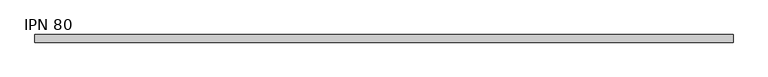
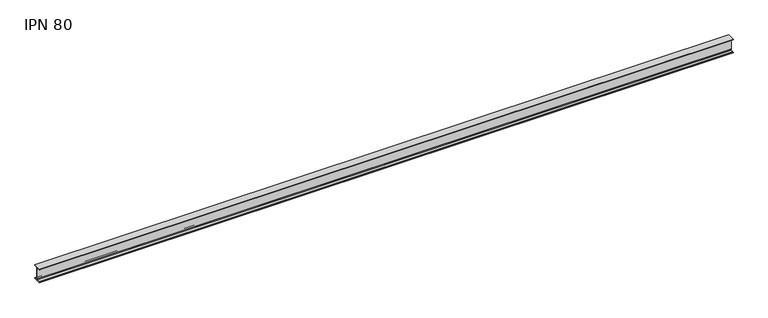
"""IFC4 building model written with IfcOpenShell, lengths in millimetres: beam geometry, IPN - Secciones en I con alas cónicas : IPN 80."""

from ifc_helpers import new_model, si_unit, point, frame, frame_2d, origin, place, context, project, spatial, polyline, circle_curve, trimmed, segment, composite_curve, outline, extrude, source, transform, mapped, element, save


def ipn_80_c03a737b(model_context):
    return source(origin(), model_context, "Body", "SweptSolid", [
        extrude(outline(composite_curve([segment(polyline([(21.0, 40.0), (21.0, 37.5704306)]), True, "CONTINUOUS"), segment(trimmed(circle_curve(frame_2d((18.7, 37.5704306)), 2.3), [point((21.0, 37.5704306))], [point((19.01889, 35.2926446))], False, "CARTESIAN"), True, "CONTINUOUS"), segment(polyline([(19.01889, 35.2926446), (5.3092734, 33.3732983)]), True, "CONTINUOUS"), segment(trimmed(circle_curve(frame_2d((5.85, 29.5109655)), 3.9), [point((5.3092734, 33.3732983))], [point((1.95, 29.5109655))], True, "CARTESIAN"), True, "CONTINUOUS"), segment(polyline([(1.95, 29.5109655), (1.95, -29.5109655)]), True, "CONTINUOUS"), segment(trimmed(circle_curve(frame_2d((5.85, -29.5109655)), 3.9), [point((1.95, -29.5109655))], [point((5.3092734, -33.3732983))], True, "CARTESIAN"), True, "CONTINUOUS"), segment(polyline([(5.3092734, -33.3732983), (19.01889, -35.2926446)]), True, "CONTINUOUS"), segment(trimmed(circle_curve(frame_2d((18.7, -37.5704306)), 2.3), [point((19.01889, -35.2926446))], [point((21.0, -37.5704306))], False, "CARTESIAN"), True, "CONTINUOUS"), segment(polyline([(21.0, -37.5704306), (21.0, -40.0), (-21.0, -40.0), (-21.0, -37.5704306)]), True, "CONTINUOUS"), segment(trimmed(circle_curve(frame_2d((-18.7, -37.5704306)), 2.3), [point((-21.0, -37.5704306))], [point((-19.01889, -35.2926446))], False, "CARTESIAN"), True, "CONTINUOUS"), segment(polyline([(-19.01889, -35.2926446), (-5.3092734, -33.3732983)]), True, "CONTINUOUS"), segment(trimmed(circle_curve(frame_2d((-5.85, -29.5109655)), 3.9), [point((-5.3092734, -33.3732983))], [point((-1.95, -29.5109655))], True, "CARTESIAN"), True, "CONTINUOUS"), segment(polyline([(-1.95, -29.5109655), (-1.95, 29.5109655)]), True, "CONTINUOUS"), segment(trimmed(circle_curve(frame_2d((-5.85, 29.5109655)), 3.9), [point((-1.95, 29.5109655))], [point((-5.3092734, 33.3732983))], True, "CARTESIAN"), True, "CONTINUOUS"), segment(polyline([(-5.3092734, 33.3732983), (-19.01889, 35.2926446)]), True, "CONTINUOUS"), segment(trimmed(circle_curve(frame_2d((-18.7, 37.5704306)), 2.3), [point((-19.01889, 35.2926446))], [point((-21.0, 37.5704306))], False, "CARTESIAN"), True, "CONTINUOUS"), segment(polyline([(-21.0, 37.5704306), (-21.0, 40.0), (21.0, 40.0)]), True, "CONTINUOUS")], self_intersect=False)), frame((-1943.85, 0.0, 0.0), z_axis=(1.0, 0.0, 0.0), x_axis=(0.0, 1.0, 0.0)), (0.0, 0.0, 1.0), 3860.85),
    ])


if __name__ == "__main__":
    model = new_model("IFC4")
    model_context = context("Model", 3, world=origin())
    ifc_project = project(units=[si_unit("LENGTHUNIT", "METRE", prefix="MILLI")], contexts=[model_context])
    site = spatial("IfcSite", under=ifc_project)
    building = spatial("IfcBuilding", under=site)
    placement = place(None, origin())
    ipn_80_shape = ipn_80_c03a737b(model_context)
    element("IfcBeam", 1, ObjectType="IPN - Secciones en I con alas cónicas : IPN 80", at=placement, inside=building, context=model_context, shape_type="MappedRepresentation", body=[
        mapped(ipn_80_shape, transform((0.0, 0.0, 0.0), x_axis=(1.0, 0.0, 0.0), y_axis=(0.0, 1.0, 0.0), z_axis=(0.0, 0.0, 1.0))),
    ])
    save(model, "model.ifc")
